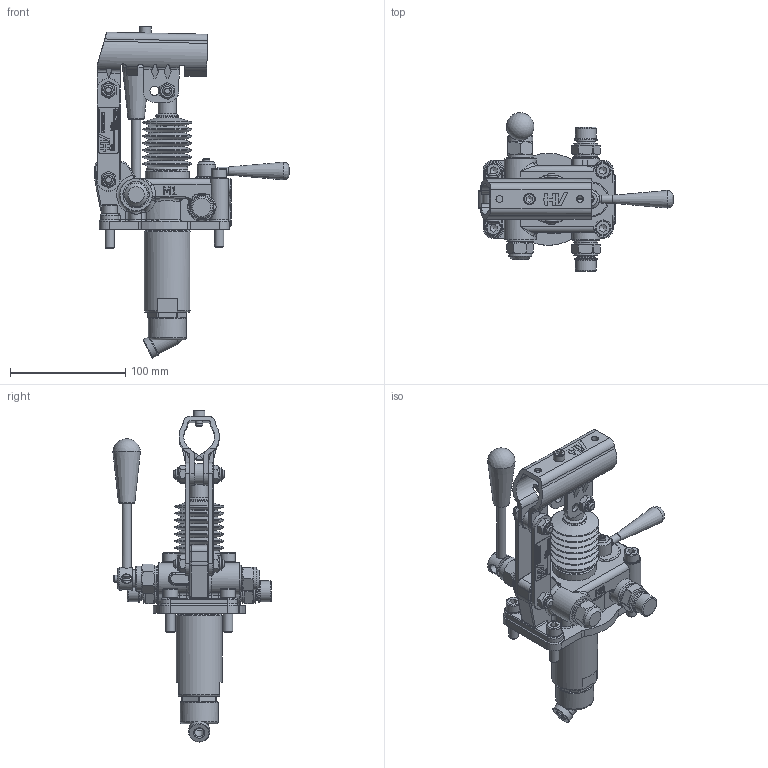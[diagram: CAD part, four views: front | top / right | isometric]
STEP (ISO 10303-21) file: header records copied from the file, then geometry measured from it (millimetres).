
FILE_DESCRIPTION((''),'2;1');
FILE_NAME('G:\HV_HYDRAULIC\AZIENDA_HV_HYDRAULIC\ARCHIVIO_DISEGNI\5_PRODOTTI_FINITI\1_POMPE_MANUALI\6057_PMD_45\6057.0053_PMD_45_dna-byA-L-s_(HV)\6057.0053.stp','2024-03-04T10:27:09',('christian.scardovi'),(''),'Autodesk Inventor 2013','Autodesk Inventor 2013','');
FILE_SCHEMA(('AUTOMOTIVE_DESIGN { 1 0 10303 214 1 1 1 1 }'));
Length unit declared in the file: millimetre
Products named in the file (1): 6057.0053
Bounding box: 169 x 137.49 x 288.31 mm (x, y, z)
Surface area: 144703.6 mm2
Topology: 2 solids, 3 shells, 1616 faces, 4091 edges, 2594 vertices
Faces by surface type: plane 773, cylinder 352, bspline 184, cone 181, torus 111, sphere 15
Full cylindrical faces by diameter (mm): 4 x2, 4.917 x2, 5 x9, 6 x8, 6.5 x1, 7 x1, 8 x18, 8.566 x1, 9 x3, 9.2 x1, 10 x4, 10.376 x1, 11.05 x6, 11.445 x2, 12 x5, 13 x4, 13.2 x1, 14 x4, 14.95 x3, 15.9 x2, 16 x7, 16.6 x4, 17 x1, 18 x5, 19 x2, 20 x6, 21 x6, 21.6 x1, 21.8 x2, 22 x2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
Entity records: 50401 total; most frequent: CARTESIAN_POINT 13091, ORIENTED_EDGE 7356, DIRECTION 6881, EDGE_CURVE 3678, AXIS2_PLACEMENT_3D 2486, VERTEX_POINT 2480, EDGE_LOOP 2072, VECTOR 1909
